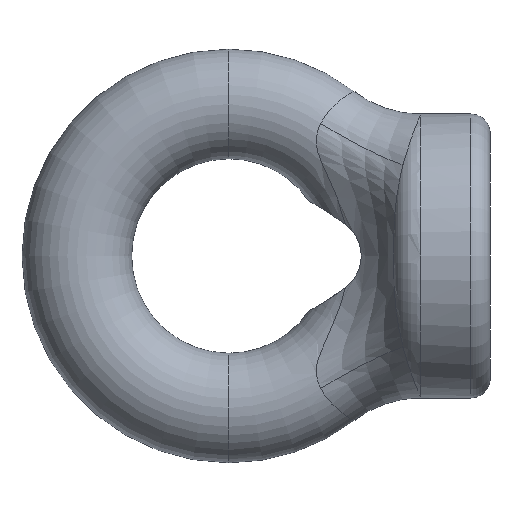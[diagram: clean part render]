
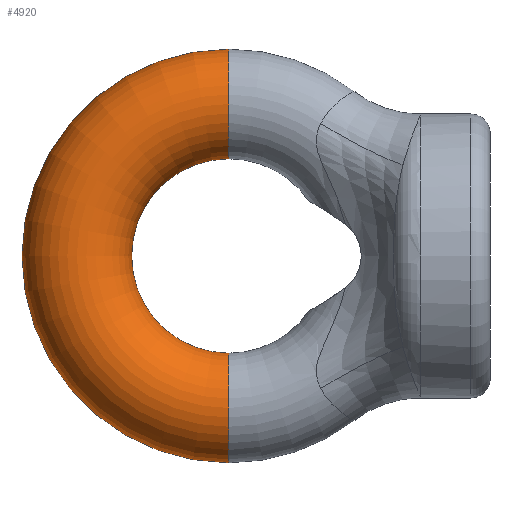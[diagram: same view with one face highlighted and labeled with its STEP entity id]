
A CAD part, front view. The second image highlights one B-rep face of the part: STEP entity #4920.
In plain terms, the highlighted toroidal (fillet/blend) face has major radius 30.5 mm and minor radius 11 mm.
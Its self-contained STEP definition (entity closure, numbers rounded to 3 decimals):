
#4115 = EDGE_CURVE ( 'NONE', #4233, #24107, #13695, .T. ) ;
#4231 = VERTEX_POINT ( 'NONE', #14018 ) ;
#4233 = VERTEX_POINT ( 'NONE', #14159 ) ;
#4275 = EDGE_CURVE ( 'NONE', #4231, #7604, #14171, .T. ) ;
#4747 = EDGE_LOOP ( 'NONE', ( #4915, #4917, #4905, #4906 ) ) ;
#4905 = ORIENTED_EDGE ( 'NONE', *, *, #4115, .T. ) ;
#4906 = ORIENTED_EDGE ( 'NONE', *, *, #4908, .T. ) ;
#4908 = EDGE_CURVE ( 'NONE', #24107, #7604, #16668, .T. ) ;
#4915 = ORIENTED_EDGE ( 'NONE', *, *, #4275, .F. ) ;
#4917 = ORIENTED_EDGE ( 'NONE', *, *, #4923, .F. ) ;
#4920 = ADVANCED_FACE ( 'NONE', ( #16760 ), #16759, .T. ) ;
#4923 = EDGE_CURVE ( 'NONE', #4233, #4231, #16748, .T. ) ;
#7604 = VERTEX_POINT ( 'NONE', #23233 ) ;
#13669 = DIRECTION ( 'NONE',  ( 0., 0., 1. ) ) ;
#13671 = DIRECTION ( 'NONE',  ( 0., 1., 0. ) ) ;
#13673 = AXIS2_PLACEMENT_3D ( 'NONE', #13684, #13671, #13669 ) ;
#13684 = CARTESIAN_POINT ( 'NONE',  ( 0., 0., 0. ) ) ;
#13695 = CIRCLE ( 'NONE', #13673, 19.5 ) ;
#14018 = CARTESIAN_POINT ( 'NONE',  ( 0., 0., -41.5 ) ) ;
#14159 = CARTESIAN_POINT ( 'NONE',  ( 0., 0., -19.5 ) ) ;
#14171 = CIRCLE ( 'NONE', #14298, 41.5 ) ;
#14294 = DIRECTION ( 'NONE',  ( 0., 0., 1. ) ) ;
#14296 = DIRECTION ( 'NONE',  ( 0., 1., 0. ) ) ;
#14298 = AXIS2_PLACEMENT_3D ( 'NONE', #14307, #14296, #14294 ) ;
#14307 = CARTESIAN_POINT ( 'NONE',  ( 0., 0., 0. ) ) ;
#16662 = DIRECTION ( 'NONE',  ( 0., 0., 1. ) ) ;
#16663 = DIRECTION ( 'NONE',  ( -1., 0., 0. ) ) ;
#16664 = CARTESIAN_POINT ( 'NONE',  ( 0., 0., 30.5 ) ) ;
#16666 = AXIS2_PLACEMENT_3D ( 'NONE', #16664, #16663, #16662 ) ;
#16668 = CIRCLE ( 'NONE', #16666, 11. ) ;
#16741 = DIRECTION ( 'NONE',  ( 0., 0., -1. ) ) ;
#16743 = DIRECTION ( 'NONE',  ( 1., 0., 0. ) ) ;
#16745 = CARTESIAN_POINT ( 'NONE',  ( 0., 0., -30.5 ) ) ;
#16746 = AXIS2_PLACEMENT_3D ( 'NONE', #16745, #16743, #16741 ) ;
#16748 = CIRCLE ( 'NONE', #16746, 11. ) ;
#16752 = DIRECTION ( 'NONE',  ( 0., 0., 1. ) ) ;
#16754 = DIRECTION ( 'NONE',  ( 0., 1., 0. ) ) ;
#16756 = AXIS2_PLACEMENT_3D ( 'NONE', #16765, #16754, #16752 ) ;
#16759 = TOROIDAL_SURFACE ( 'NONE', #16756, 30.5, 11. ) ;
#16760 = FACE_OUTER_BOUND ( 'NONE', #4747, .T. ) ;
#16765 = CARTESIAN_POINT ( 'NONE',  ( 0., 0., 0. ) ) ;
#23233 = CARTESIAN_POINT ( 'NONE',  ( 0., 0., 41.5 ) ) ;
#23831 = CARTESIAN_POINT ( 'NONE',  ( 0., 0., 19.5 ) ) ;
#24107 = VERTEX_POINT ( 'NONE', #23831 ) ;
